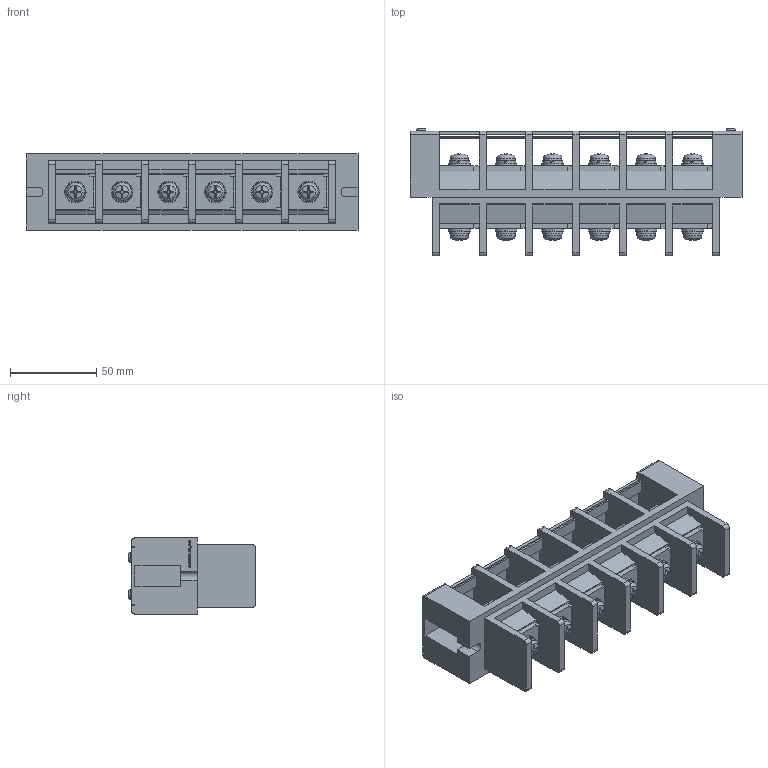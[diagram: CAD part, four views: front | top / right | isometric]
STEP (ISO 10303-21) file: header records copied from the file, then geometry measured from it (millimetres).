
FILE_DESCRIPTION(/* description */ ('Alibre Inc.'),/* implementation_level */ '2;1');
FILE_NAME(/* name */ 'export0',/* time_stamp */ '2016-04-05T18:13:18+09:00',/* author */ (''),/* organization */ (''),/* preprocessor_version */ 'ST-DEVELOPER v14',/* originating_system */ 'Alibre',/* authorisation */ '');
FILE_SCHEMA (('CONFIG_CONTROL_DESIGN'));
Length unit declared in the file: centimetre
Products named in the file (1): ID_1
Bounding box: 192 x 73.94 x 44 mm (x, y, z)
Volume: 216348.2 mm3; surface area: 101826.5 mm2
Topology: 8 solids, 10 shells, 988 faces, 2737 edges, 1782 vertices
Faces by surface type: plane 692, cylinder 148, cone 68, bspline 52, sphere 14, torus 14
Full cylindrical faces by diameter (mm): 3 x4, 5.5 x2, 6 x12, 8 x12, 10.5 x12, 12.5 x12
Entity records: 29794 total; most frequent: CARTESIAN_POINT 6127, ORIENTED_EDGE 5274, DIRECTION 3992, EDGE_CURVE 2637, VERTEX_POINT 1762, VECTOR 1685, LINE 1685, AXIS2_PLACEMENT_3D 1496
